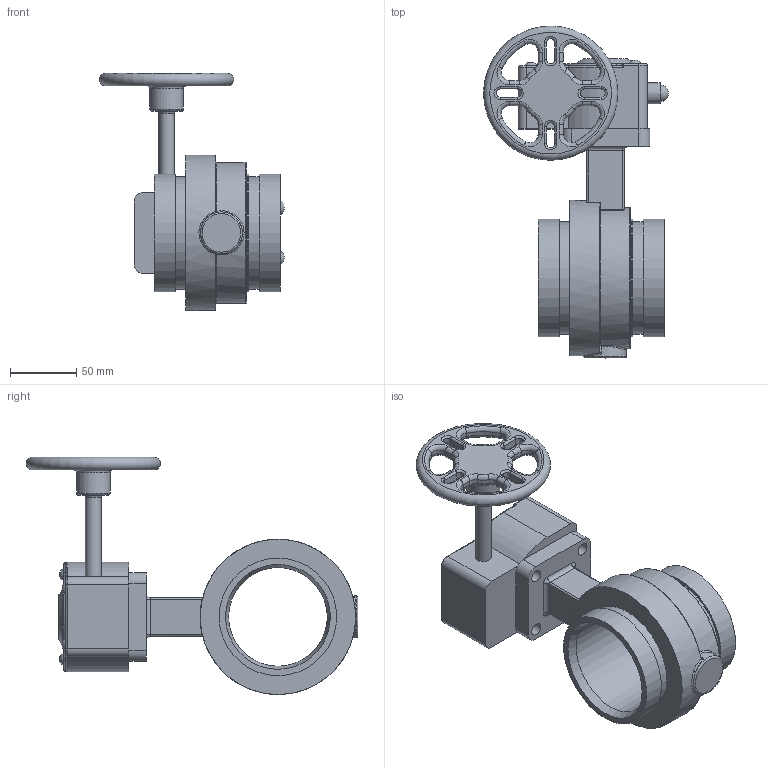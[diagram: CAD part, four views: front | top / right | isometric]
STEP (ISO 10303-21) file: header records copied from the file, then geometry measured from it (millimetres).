
FILE_DESCRIPTION(/* description */ ('VIC SS VALVE BUTTERFLY VIC 300 MASTERSEAL GO SERIES 861 (POTABLE WATER)','CAx-IF Rec.Pracs.---Representation and Presentation of Product Manufacturing Information (PMI)---4.0---2014-10-13'),/* implementation_level */ '2;1');
FILE_NAME(/* name */ 'C:\Users\kkamble\AppData\Roaming\Autodesk\ApplicationPlugins\Back Up\Victaulic_SS_Valve Butterfly Vic-300 Masterseal GO_Series 861 (OGS)-Potable Water\Victaulic_SS_Valve Butterfly Vic-300 Masterseal GO_3 (80).stp',/* time_stamp */ '2020-04-23T17:58:53+05:00',/* author */ ('kkamble'),/* organization */ ('Victaulic'),/* preprocessor_version */ 'ST-DEVELOPER v17.2',/* originating_system */ 'Autodesk Inventor 2019',/* authorisation */ '');
FILE_SCHEMA (('AP242_MANAGED_MODEL_BASED_3D_ENGINEERING_MIM_LF { 1 0 10303 442 1 1 4 }'));
Length unit declared in the file: inch
Products named in the file (3): 861-03.0; 861-03.0_1; 861-03.0_2
Assembly tree (2 placements, depth 2):
  861-03.0
    861-03.0_1
    861-03.0_2
Bounding box: 139.95 x 250.95 x 179.45 mm (x, y, z)
Volume: 831412.1 mm3; surface area: 139216.5 mm2
Topology: 2 solids, 2 shells, 363 faces, 858 edges, 522 vertices
Faces by surface type: cylinder 141, plane 96, torus 93, bspline 18, sphere 12, cone 3
Full cylindrical faces by diameter (mm): 7.938 x4, 8.128 x1, 9.652 x5, 11.938 x1, 15.875 x2, 25.4 x1, 44.45 x1, 54.102 x1, 74.676 x1, 84.938 x2, 88.9 x3, 106.68 x1, 117.602 x1
Entity records: 11657 total; most frequent: CARTESIAN_POINT 2479, DIRECTION 2016, ORIENTED_EDGE 1704, AXIS2_PLACEMENT_3D 853, EDGE_CURVE 852, VERTEX_POINT 522, CIRCLE 499, EDGE_LOOP 418
